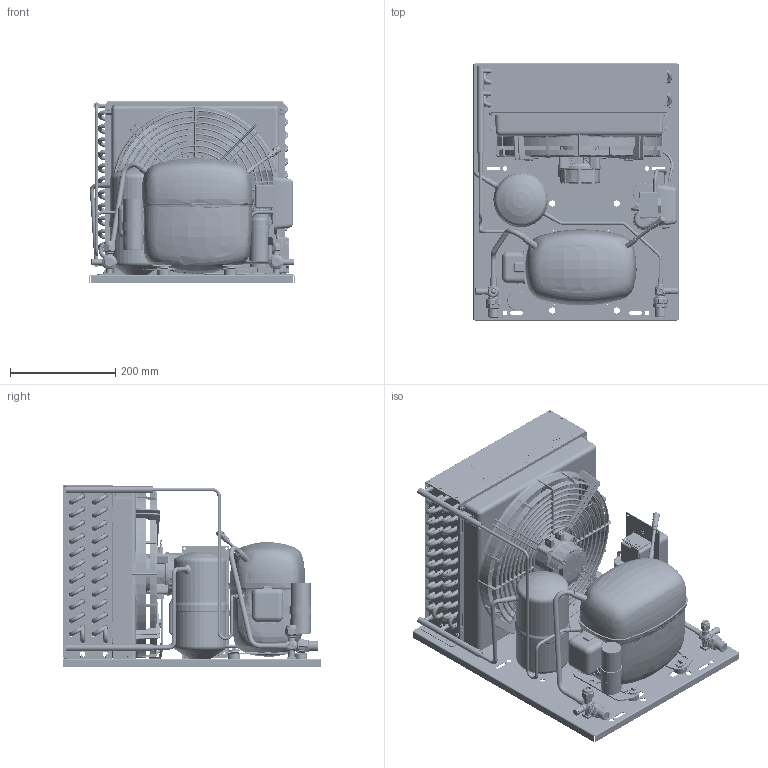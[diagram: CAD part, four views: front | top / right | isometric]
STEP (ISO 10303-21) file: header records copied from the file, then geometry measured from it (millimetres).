
FILE_DESCRIPTION(/* description */ ('Unknown'),/* implementation_level */ '2;1');
FILE_NAME(/* name */ '2298-0055',/* time_stamp */ '2022-01-10T15:01:58+01:00',/* author */ ('Unknown'),/* organization */ ('Unknown'),/* preprocessor_version */ 'ST-DEVELOPER v16.7',/* originating_system */ 'Solid Edge',/* authorisation */ 'Unknown');
FILE_SCHEMA (('AUTOMOTIVE_DESIGN {1 0 10303 214 3 1 1}'));
Products named in the file (60): 2298-0055; 92505124_oa_0; 1340315f70; r50115706; r50115707; 2990210_2; r59700361; r50115701; r50095108; r50115604; cg300n; 6062_22M6_0; a300-19; a300-19_costruzione_oa_1; a300-19_costruzione_oa_2; a300-19_costruzione_oa_3; a300-19_costruzione_oa_4; a300-19_costruzione_oa_5; 62010155_2_oa_0; 84fm8x12xxxteff00_0; 6072_23m10_0; sc18cl-a-csr_Large_el; sc18cl-a-csr_TRM_SRF; sc18cl-a-csr_TRM_SRF_0; sc18cl-a-csr_TRM_SRF_1; sc18cl-a-csr_TRM_SRF_2; sc18cl-a-csr_TRM_SRF_3; sc18cl-a-csr_TRM_SRF_4; sc18cl-a-csr_TRM_SRF_5; sc18cl_a_csr_cavo_01; sc18cl_a_csr_cavo_02; 84DM8X6.9XXESRF00_0; 100_200vs00_0; 84a4.2x9.5xtbcf01_2; sc18cl-a-csr_piedino_2; 84RM10X21XXPIAF00_2; 84v1.8x35xxcopf00_2; 7210-0003_1; 8392_A_2; 7560_2_0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
Assembly tree (128 placements, depth 3):
  2298-0055
    92505124_oa_0
    1340315f70
      r50115706
      r50115707
      2990210_2  x24
      r59700361  x24
      r50115701
      r50095108
      r50115604  x2
    cg300n
    6062_22M6_0
    a300-19
      a300-19_costruzione_oa_1
      a300-19_costruzione_oa_2
      a300-19_costruzione_oa_3
      a300-19_costruzione_oa_4
      a300-19_costruzione_oa_5
    62010155_2_oa_0
    84fm8x12xxxteff00_0  x2
    6072_23m10_0
    sc18cl-a-csr_Large_el
      sc18cl-a-csr_TRM_SRF
      sc18cl-a-csr_TRM_SRF_0
      sc18cl-a-csr_TRM_SRF_1
      sc18cl-a-csr_TRM_SRF_2
      sc18cl-a-csr_TRM_SRF_3
      sc18cl-a-csr_TRM_SRF_4
      sc18cl-a-csr_TRM_SRF_5
      sc18cl_a_csr_cavo_01
      sc18cl_a_csr_cavo_02
    84DM8X6.9XXESRF00_0
    100_200vs00_0
    84a4.2x9.5xtbcf01_2  x7
    sc18cl-a-csr_piedino_2  x4
    84RM10X21XXPIAF00_2  x4
    84v1.8x35xxcopf00_2  x4
    7210-0003_1  x2
    8392_A_2  x2
    7560_2_0
    7010_22_0
    7030_3m10_0
    7560_3_0
    99510255_0
      8351_2_2
      99510255_Tubo_0
      8392_A_2
    84t4.8x8xxxtcca00_oa_6
    84t4.8x8xxxtcca00_oa_7
    84t4.8x8xxxtcca00_oa_8
    84t4.8x8xxxtcca00_oa_9
    680063704
    84dm4x3.6xxesrf00_2  x4
    99000082_secop_2
    680063705
    SC21MFX-A-CSR
    99000082_SECOP_F-GAS_2
    6804-0510
    6805-1168
    9221-0002_2
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Bounding box: 390 x 490 x 345.32 mm (x, y, z)
Volume: 9942084.9 mm3; surface area: 3757865.8 mm2
Topology: 124 solids, 131 shells, 13062 faces, 33742 edges, 21448 vertices
Faces by surface type: plane 5781, cylinder 2788, bspline 1850, torus 1523, cone 997, sphere 123
Full cylindrical faces by diameter (mm): 0.5 x2, 1 x3, 1.2 x4, 1.8 x20, 2.2 x4, 2.45 x6, 2.7 x4, 3 x7, 3.14 x6, 3.2 x6, 3.242 x4, 3.3 x2, 3.5 x15, 3.6 x6, 3.66 x4, 3.7 x4, 3.85 x2, 3.9 x2, 4 x31, 4.2 x17, 4.205 x11, 4.3 x1, 4.4 x4, 4.5 x17, 4.6 x6, 4.7 x4, 4.95 x1, 5 x13, 5.1 x2, 5.2 x1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
Entity records: 595886 total; most frequent: CARTESIAN_POINT 291087, ORIENTED_EDGE 59600, DIRECTION 49599, EDGE_CURVE 29800, VERTEX_POINT 19740, AXIS2_PLACEMENT_3D 17979, FACE_BOUND 15044, EDGE_LOOP 15042
